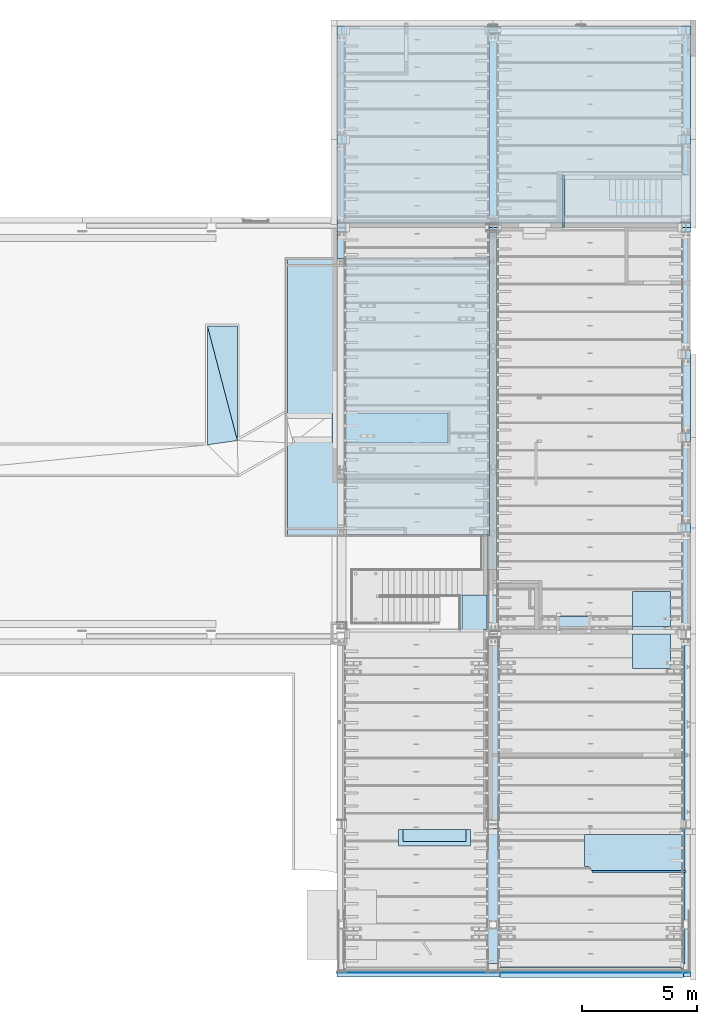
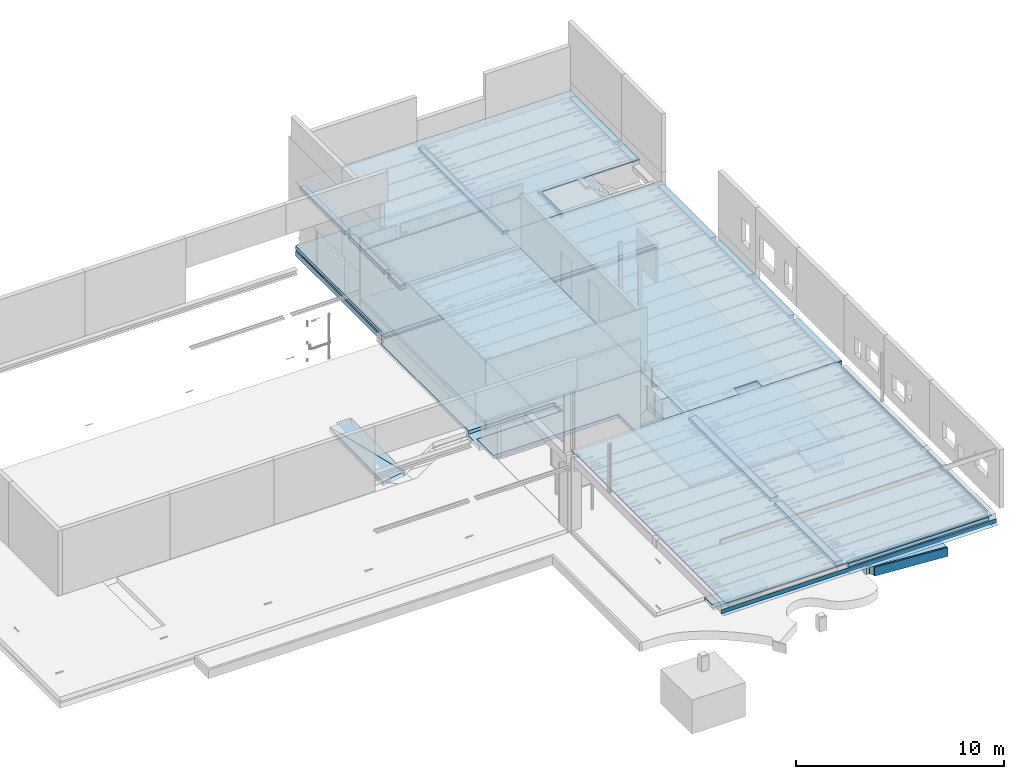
# One storey, part 64 of 230: 37 slabs, 3 plates, 1 element without a shape of its own.
"""IFC4X3_ADD2 building model written with IfcOpenShell, lengths in millimetres."""

from ifc_helpers import new_model, si_unit, direction, frame, frame_2d, origin_with_axes, place, context, subcontext, project, spatial, polyline, rectangle, outline, extrude, clip, bounded_halfspace, material, layer, layer_set, layer_usage, type_object, element, aggregate, save


model = new_model("IFC4X3_ADD2")

# Units and contexts
model_context = context("Model", 3, precision=1e-05, world=origin_with_axes(), true_north=direction((0.0, 1.0)))
body_context = subcontext(model_context, "Body", "Model", "MODEL_VIEW")
ifc_project = project(units=[si_unit("LENGTHUNIT", "METRE", prefix="MILLI"), si_unit("AREAUNIT", "SQUARE_METRE"), si_unit("VOLUMEUNIT", "CUBIC_METRE"), si_unit("PLANEANGLEUNIT", "RADIAN"), si_unit("TIMEUNIT", "SECOND"), si_unit("MASSUNIT", "GRAM")], contexts=[model_context])

# Site, building, storey
site_placement = place(None, origin_with_axes())
site = spatial("IfcSite", under=ifc_project, at=site_placement, Name="Site", CompositionType="ELEMENT")
building_placement = place(site_placement, origin_with_axes())
building = spatial("IfcBuilding", under=site, at=building_placement, Name="IFC Building Story")
storey_placement = place(building_placement, origin_with_axes())
storey = spatial("IfcBuildingStorey", under=building, at=storey_placement, Name="ETAGE 00 (0)", Elevation=0.0)

# Slabs
ifc_material_1 = material(Name="BS_13_Ossature en béton armé - Eléments coulé sur place")
slab_type_1 = type_object("IfcSlabType", Name="Sol:BS_13_FL_BTcoulé200", PredefinedType="FLOOR", material=ifc_material_1)
slab_1_placement = place(storey_placement, frame((33011.68947816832, 18250.00000000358, -200.0), z_axis=(0.0, 0.0, 1.0), x_axis=(0.0, -1.0, 0.0)))
element("IfcSlab", 1, at=slab_1_placement, inside=storey, type_object=slab_type_1, Name="Sol:BS_13_FL_BTcoulé200", ObjectType="Sol:BS_13_FL_BTcoulé200", PredefinedType="FLOOR", context=body_context, shape_type="SweptSolid", body=[
    extrude(outline(polyline([(7802.41745665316, 66.8750000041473), (883.5778034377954, 66.8750000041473), (883.5778034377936, -6873.124999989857), (-717.582543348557, -6873.124999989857), (-717.5825433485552, -2123.124999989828), (-1517.582543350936, -2123.124999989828), (-1517.582543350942, -6873.12499998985), (-9987.582543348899, -6873.124999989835), (-9987.582543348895, -6688.124999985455), (-10237.58254334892, -6688.124999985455), (-10237.58254334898, 8616.874999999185), (7802.417456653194, 8616.874999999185), (7802.417456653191, 7766.874999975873), (5971.917456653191, 7766.874999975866), (5971.917456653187, 6106.874999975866), (7802.417456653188, 6106.874999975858), (7802.41745665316, 66.8750000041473)])), frame((10237.58254334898, 6873.124999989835, 0.0), z_axis=(0.0, 0.0, 1.0), x_axis=(1.0, 0.0, 0.0)), (0.0, 0.0, 1.0), 200.0),
])
slab_2_placement = place(storey_placement, frame((33201.6894781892, 18000.00000000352, 300.0), z_axis=(0.0, 0.0, 1.0), x_axis=(1.0, 0.0, 0.0)))
element("IfcSlab", 2, at=slab_2_placement, inside=storey, type_object=slab_type_1, Name="Sol:BS_13_FL_BTcoulé200", ObjectType="Sol:BS_13_FL_BTcoulé200", PredefinedType="FLOOR", context=body_context, shape_type="SweptSolid", body=[
    extrude(rectangle(XDim=15299.9999999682, YDim=8550.00000000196, at=frame_2d((0.0, 5.95523630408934e-12), x_axis=(1.0, 0.0))), frame((7649.999999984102, 4275.000000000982, 0.0), z_axis=(0.0, 0.0, 1.0), x_axis=(1.0, 0.0, 0.0)), (0.0, 0.0, 1.0), 200.0),
])
slab_3_placement = place(storey_placement, frame((35856.68947817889, -8978.839739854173, -200.0), z_axis=(0.0, 0.0, 1.0), x_axis=(1.0, 0.0, 0.0)))
element("IfcSlab", 3, at=slab_3_placement, inside=storey, type_object=slab_type_1, Name="Sol:BS_13_FL_BTcoulé200", ObjectType="Sol:BS_13_FL_BTcoulé200", PredefinedType="FLOOR", context=body_context, shape_type="SweptSolid", body=[
    extrude(rectangle(XDim=3130.000000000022, YDim=709.1298265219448, at=frame_2d((0.0, 5.95523630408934e-12), x_axis=(1.0, 0.0))), frame((1565.000000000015, 354.5649132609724, 0.0), z_axis=(0.0, 0.0, 1.0), x_axis=(1.0, 0.0, 0.0)), (0.0, 0.0, 1.0), 200.0),
])
slab_4_placement = place(storey_placement, frame((45991.6894781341, -1289.999999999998, -500.9975124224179), z_axis=(0.0, -0.09950371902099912, 0.9950371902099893), x_axis=(1.0, 0.0, 0.0)))
element("IfcSlab", 4, at=slab_4_placement, inside=storey, type_object=slab_type_1, Name="Sol:BS_13_FL_BTcoulé200", ObjectType="Sol:BS_13_FL_BTcoulé200", PredefinedType="FLOOR", context=body_context, shape_type="Clipping", body=[
    clip(clip(extrude(outline(polyline([(-830.0, -763.7406715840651), (-830.0, 763.7406715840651), (830.0, 763.7406715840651), (830.0, -763.7406715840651), (-830.0, -763.7406715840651)])), frame((829.9999999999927, 763.7406715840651, 0.0), z_axis=(0.0, 0.0, 1.0), x_axis=(1.0, 0.0, 0.0)), (0.0, 0.0, 1.0), 200.0), bounded_halfspace(frame((-45991.68947813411, 49.85111570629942, 498.5111570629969), z_axis=(0.0, -0.9950371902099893, 0.09950371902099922), x_axis=(1.0, 0.0, 0.0)), False, frame((829.9999999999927, 763.7406715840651, 0.0), z_axis=(0.0, 0.0, 1.0), x_axis=(1.0, 0.0, 0.0)), polyline([(-830.0, -763.7406715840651), (830.0, -763.7406715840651), (830.0, -743.7406715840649), (-830.0, -743.7406715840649), (-830.0, -763.7406715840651)]))), bounded_halfspace(frame((-45991.68947813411, 1542.40690102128, 349.2555785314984), z_axis=(0.0, 0.9950371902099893, -0.09950371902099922), x_axis=(-1.0, 0.0, 0.0)), False, frame((829.9999999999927, 763.7406715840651, 0.0), z_axis=(0.0, 0.0, 1.0), x_axis=(1.0, 0.0, 0.0)), polyline([(830.0, 743.740671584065), (-830.0, 743.740671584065), (-830.0, 763.7406715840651), (830.0, 763.7406715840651), (830.0, 743.740671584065)]))),
])
slab_5_placement = place(storey_placement, frame((45991.6894781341, 210.0000000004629, -350.0), z_axis=(0.0, 0.0, 1.0), x_axis=(1.0, 0.0, 0.0)))
element("IfcSlab", 5, at=slab_5_placement, inside=storey, type_object=slab_type_1, Name="Sol:BS_13_FL_BTcoulé200", ObjectType="Sol:BS_13_FL_BTcoulé200", PredefinedType="FLOOR", context=body_context, shape_type="SweptSolid", body=[
    extrude(rectangle(XDim=1660.0, YDim=330.500000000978, at=frame_2d((0.0, 5.95523630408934e-12), x_axis=(1.0, 0.0))), frame((830.0, 165.250000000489, 0.0), z_axis=(0.0, 0.0, 1.0), x_axis=(1.0, 0.0, 0.0)), (0.0, 0.0, 1.0), 200.0),
])
slab_6_placement = place(storey_placement, frame((45991.68947813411, 540.5000000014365, -350.9975124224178), z_axis=(0.0, -0.09950371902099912, 0.9950371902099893), x_axis=(1.0, 0.0, 0.0)))
element("IfcSlab", 6, at=slab_6_placement, inside=storey, type_object=slab_type_1, Name="Sol:BS_13_FL_BTcoulé200", ObjectType="Sol:BS_13_FL_BTcoulé200", PredefinedType="FLOOR", context=body_context, shape_type="Clipping", body=[
    clip(clip(extrude(outline(polyline([(-830.0, -763.7406715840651), (-830.0, 763.7406715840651), (830.0, 763.7406715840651), (830.0, -763.7406715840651), (-830.0, -763.7406715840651)])), frame((829.9999999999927, 763.7406715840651, 0.0), z_axis=(0.0, 0.0, 1.0), x_axis=(1.0, 0.0, 0.0)), (0.0, 0.0, 1.0), 200.0), bounded_halfspace(frame((-45991.68947813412, 34.92555785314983, 349.2555785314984), z_axis=(0.0, -0.9950371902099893, 0.09950371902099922), x_axis=(1.0, 0.0, 0.0)), False, frame((829.9999999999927, 763.7406715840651, 0.0), z_axis=(0.0, 0.0, 1.0), x_axis=(1.0, 0.0, 0.0)), polyline([(-830.0, -763.7406715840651), (830.0, -763.7406715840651), (830.0, -743.7406715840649), (-830.0, -743.7406715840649), (-830.0, -763.7406715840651)]))), bounded_halfspace(frame((-45991.68947813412, 1527.48134316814, 200.0), z_axis=(0.0, 0.9950371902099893, -0.09950371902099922), x_axis=(-1.0, 0.0, 0.0)), False, frame((829.9999999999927, 763.7406715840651, 0.0), z_axis=(0.0, 0.0, 1.0), x_axis=(1.0, 0.0, 0.0)), polyline([(830.0, 743.740671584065), (-830.0, 743.740671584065), (-830.0, 763.7406715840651), (830.0, 763.7406715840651), (830.0, 743.740671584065)]))),
])
ifc_material_2 = material(Name="BS_13_Sable stabilisé")
ifc_layer_1 = layer(ifc_material_2, 50.0)
ifc_material_3 = material(Name="BS_13_Empierrement sous dalle")
ifc_layer_2 = layer(ifc_material_3, 250.0)
ifc_layer_set_1 = layer_set([ifc_layer_1, ifc_layer_2], Name="Sol:BS_13_FL_STAB50-EMPI250 2")
ifc_layer_usage_1 = layer_usage(ifc_layer_set_1, "AXIS3", "POSITIVE", 0.0)
slab_type_2 = type_object("IfcSlabType", Name="Sol:BS_13_FL_STAB50-EMPI250 2 300", PredefinedType="FLOOR", material=ifc_layer_set_1)
slab_7_placement = place(storey_placement, frame((33201.6894781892, 18249.999999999, -80.0), z_axis=(0.0, 0.0, 1.0), x_axis=(1.0, 0.0, 0.0)))
element("IfcSlab", 7, at=slab_7_placement, inside=storey, type_object=slab_type_2, material=ifc_layer_usage_1, Name="Sol:BS_13_FL_STAB50-EMPI250 2", ObjectType="Sol:BS_13_FL_STAB50-EMPI250 2", PredefinedType="FLOOR", context=body_context, shape_type="SweptSolid", body=[
    extrude(rectangle(XDim=15299.9999999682, YDim=8300.000000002, at=frame_2d((0.0, 5.95523630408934e-12), x_axis=(1.0, 0.0))), frame((7649.999999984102, 4150.000000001, 0.0), z_axis=(0.0, 0.0, 1.0), x_axis=(1.0, 0.0, 0.0)), (0.0, 0.0, 1.0), 300.0),
])
ifc_layer_usage_2 = layer_usage(ifc_layer_set_1, "AXIS3", "POSITIVE", 0.0)
slab_8_placement = place(storey_placement, frame((36056.6894781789, -8778.839739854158, -500.0), z_axis=(0.0, 0.0, 1.0), x_axis=(1.0, 0.0, 0.0)))
element("IfcSlab", 8, at=slab_8_placement, inside=storey, type_object=slab_type_2, material=ifc_layer_usage_2, Name="Sol:BS_13_FL_STAB50-EMPI250", ObjectType="Sol:BS_13_FL_STAB50-EMPI250", PredefinedType="FLOOR", context=body_context, shape_type="SweptSolid", body=[
    extrude(rectangle(XDim=2730.0, YDim=509.1298265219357, at=frame_2d((0.0, 5.95523630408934e-12), x_axis=(1.0, 0.0))), frame((1365.0, 254.5649132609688, 0.0), z_axis=(0.0, 0.0, 1.0), x_axis=(1.0, 0.0, 0.0)), (0.0, 0.0, 1.0), 300.0),
])

slab_9_placement = place(storey_placement, origin_with_axes())
slab_9 = element("IfcSlab", 9, at=slab_9_placement, inside=storey, Name="Sol:BS_13_FL_BTcoulé250", ObjectType="Sol:BS_13_FL_BTcoulé250", PredefinedType="NOTDEFINED")
slab_type_3 = type_object("IfcSlabType", Name="Sol:BS_13_FL_BTcoulé250", PredefinedType="FLOOR", material=ifc_material_1)
slab_10_placement = place(slab_9_placement, frame((27586.6894781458, 13551.63039487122, -645.4000000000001), z_axis=(0.0, -0.0175072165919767, 0.999846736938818), x_axis=(0.2531579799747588, -0.9672766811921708, -0.01693691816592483)))
slab_10 = element("IfcSlab", 10, at=slab_10_placement, type_object=slab_type_3, Name="Sol:BS_13_FL_BTcoulé250", ObjectType="Sol:BS_13_FL_BTcoulé250", PredefinedType="FLOOR", context=body_context, shape_type="SweptSolid", body=[
    extrude(outline(polyline([(-1492.798723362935, 838.5634887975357), (3314.70282069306, -419.4745403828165), (-1821.904097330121, -419.0889484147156), (-1492.798723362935, 838.5634887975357)])), frame((1820.43058544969, 419.4745403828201, 86.98666611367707), z_axis=(0.0, 0.0, 1.0), x_axis=(1.0, 0.0, 0.0)), (-0.01693691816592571, 0.004432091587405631, 0.9998467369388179), 250.0),
])
slab_11_placement = place(slab_9_placement, frame((27586.68947813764, 13551.63039487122, -661.2999999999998), z_axis=(-0.009416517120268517, -0.0199693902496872, 0.9997562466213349), x_axis=(0.0001880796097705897, -0.9998005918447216, -0.0199685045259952)))
slab_11 = element("IfcSlab", 11, at=slab_11_placement, type_object=slab_type_3, Name="Sol:BS_13_FL_BTcoulé250", ObjectType="Sol:BS_13_FL_BTcoulé250", PredefinedType="FLOOR", context=body_context, shape_type="SweptSolid", body=[
    extrude(outline(polyline([(-3374.088850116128, -432.7179288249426), (1595.519823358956, 866.4050105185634), (1778.569026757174, -433.6870816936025), (-3374.088850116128, -432.7179288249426)])), frame((3372.0340910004, 433.6870816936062, 102.8749177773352), z_axis=(0.0, 0.0, 1.0), x_axis=(1.0, 0.0, 0.0)), (-0.01996850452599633, 0.009418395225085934, 0.9997562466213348), 250.0),
])
aggregate(slab_9, [slab_10, slab_11])

slab_12_placement = place(storey_placement, frame((33011.68947816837, 8479.99999999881, -549.2341742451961), z_axis=(-0.0188366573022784, 0.0, 0.999822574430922), x_axis=(0.999822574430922, 0.0, 0.0188366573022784)))
element("IfcSlab", 12, at=slab_12_placement, inside=storey, type_object=slab_type_3, Name="Sol:BS_13_FL_BTcoulé250", ObjectType="Sol:BS_13_FL_BTcoulé250", PredefinedType="FLOOR", context=body_context, shape_type="Clipping", body=[
    clip(clip(extrude(outline(polyline([(-2502.798224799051, 650.0000000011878), (2502.798224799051, 650.0000000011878), (2502.798224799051, -650.0000000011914), (-2502.798224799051, -650.0000000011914), (-2502.798224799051, 650.0000000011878)])), frame((2502.798224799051, 650.0000000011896, 0.0), z_axis=(0.0, 0.0, 1.0), x_axis=(1.0, 0.0, 0.0)), (0.0, 0.0, 1.0), 249.9556436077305), bounded_halfspace(frame((10.34573591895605, -8479.99999999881, 549.1367260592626), z_axis=(-0.999822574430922, 0.0, 0.01883665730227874), x_axis=(0.0, -1.0, 0.0)), False, frame((2502.798224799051, 650.0000000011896, 0.0), z_axis=(0.0, 0.0, 1.0), x_axis=(1.0, 0.0, 0.0)), polyline([(-2502.798224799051, 650.0000000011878), (-2502.798224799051, -650.0000000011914), (-2498.089060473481, -650.0000000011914), (-2498.089060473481, 650.0000000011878), (-2502.798224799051, 650.0000000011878)]))), bounded_halfspace(frame((5009.458608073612, -8479.99999999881, 454.9534395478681), z_axis=(0.999822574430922, 0.0, -0.01883665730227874), x_axis=(0.0, 1.0, 0.0)), False, frame((2502.798224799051, 650.0000000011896, 0.0), z_axis=(0.0, 0.0, 1.0), x_axis=(1.0, 0.0, 0.0)), polyline([(2498.089060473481, -650.0000000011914), (2498.089060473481, 650.0000000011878), (2502.798224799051, 650.0000000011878), (2502.798224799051, -650.0000000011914), (2498.089060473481, -650.0000000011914)]))),
])
ifc_material_4 = material(Name="BS_28_Ossature en béton armé - Eléments coulé sur place")
slab_type_4 = type_object("IfcSlabType", Name="Sol:BS_23_FL_BTcoulé270", PredefinedType="FLOOR", material=ifc_material_4)
slab_13_placement = place(storey_placement, frame((31047.18947812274, 16459.16034673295, 4000.0), z_axis=(0.0, 0.0, 1.0), x_axis=(0.0, -1.0, 0.0)))
element("IfcSlab", 13, at=slab_13_placement, inside=storey, type_object=slab_type_4, Name="Sol:BS_23_FL_BTcoulé270", ObjectType="Sol:BS_23_FL_BTcoulé270", PredefinedType="FLOOR", context=body_context, shape_type="SweptSolid", body=[
    extrude(rectangle(XDim=11980.3206935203, YDim=2554.500000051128, at=frame_2d((0.0, 5.95523630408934e-12), x_axis=(-1.0, 0.0))), frame((5990.160346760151, 1277.250000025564, 0.0), z_axis=(0.0, 0.0, 1.0), x_axis=(1.0, 0.0, 0.0)), (0.0, 0.0, 1.0), 270.0),
])
slab_14_placement = place(storey_placement, frame((38621.18899999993, 400.000228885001, 4000.000000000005), z_axis=(0.0, 0.0, 1.0), x_axis=(1.0, 0.0, 0.0)))
element("IfcSlab", 14, at=slab_14_placement, inside=storey, type_object=slab_type_4, Name="Sol:BS_23_FL_BTcoulé270", ObjectType="Sol:BS_23_FL_BTcoulé270", PredefinedType="FLOOR", context=body_context, shape_type="Clipping", body=[
    clip(extrude(outline(polyline([(-755.0, 742.499867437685), (755.0, 742.499867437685), (755.0, -742.499867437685), (-755.0, -742.499867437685), (-755.0, 742.499867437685)])), frame((755.0, 742.499867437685, 0.0), z_axis=(0.0, 0.0, 1.0), x_axis=(1.0, 0.0, 0.0)), (0.0, 0.0, 1.0), 270.0), bounded_halfspace(frame((-38621.18899999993, -400.000228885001, 199.9999999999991), z_axis=(0.0, 0.0, 1.0), x_axis=(1.0, 0.0, 0.0)), False, frame((755.0, 742.499867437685, 0.0), z_axis=(0.0, 0.0, 1.0), x_axis=(1.0, 0.0, 0.0)), polyline([(755.0, 742.499867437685), (328.5004781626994, 742.499867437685), (328.5004781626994, -742.499867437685), (755.0, -742.499867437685), (755.0, 742.499867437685)]))),
])
ifc_material_5 = material(Name="BS_92_Klinker")
ifc_layer_3 = layer(ifc_material_5, 200.0)
ifc_layer_4 = layer(ifc_material_2, 150.0)
ifc_layer_5 = layer(ifc_material_3, 150.0)
ifc_layer_set_2 = layer_set([ifc_layer_3, ifc_layer_4, ifc_layer_5], Name="Sol:BS_13_FL_BTcoulé500 exterieur")
ifc_layer_usage_3 = layer_usage(ifc_layer_set_2, "AXIS3", "POSITIVE", 0.0)
slab_type_5 = type_object("IfcSlabType", Name="Sol:BS_13_FL_BTcoulé500 exterieur 500", PredefinedType="FLOOR", material=ifc_layer_set_2)
slab_15_placement = place(storey_placement, frame((43925.13573085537, -10076.87289093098, -821.1637500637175), z_axis=(0.06810872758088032, 0.0, 0.9976779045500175), x_axis=(0.9976779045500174, 0.0, -0.06810872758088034)))
element("IfcSlab", 15, at=slab_15_placement, inside=storey, type_object=slab_type_5, material=ifc_layer_usage_3, Name="Sol:BS_13_FL_BTcoulé500 exterieur", ObjectType="Sol:BS_13_FL_BTcoulé500 exterieur", PredefinedType="FLOOR", context=body_context, shape_type="SweptSolid", body=[
    extrude(outline(polyline([(-1057.276388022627, -529.7731150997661), (-1186.177846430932, -314.215239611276), (-1376.236106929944, -325.9838764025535), (-1376.236106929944, 1067.099689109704), (3028.485734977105, 1067.099689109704), (3028.485734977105, -482.1135735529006), (-1061.045021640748, -482.1135735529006), (-1057.276388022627, -529.7731150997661)])), frame((1355.803488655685, 529.7731150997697, 299.3033713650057), z_axis=(0.0, 0.0, 1.0), x_axis=(1.0, 0.0, 0.0)), (-0.06810872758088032, 0.0, 0.9976779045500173), 501.1637500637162),
])
ifc_material_6 = material(Name="21_Bordure_BetonPrefabrique_500")
slab_type_6 = type_object("IfcSlabType", Name="Sol:BS_13_FL_BTbordure en beton", PredefinedType="FLOOR", material=ifc_material_6)
slab_16_placement = place(storey_placement, frame((44239.59491235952, -10127.99800123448, -821.0544636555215), z_axis=(0.0, -1.0, 0.0), x_axis=(1.0, 0.0, 0.0)))
element("IfcSlab", 16, at=slab_16_placement, inside=storey, type_object=slab_type_6, Name="Sol:BS_13_FL_BTbordure en beton", ObjectType="Sol:BS_13_FL_BTbordure en beton", PredefinedType="FLOOR", context=body_context, shape_type="Clipping", body=[
    clip(extrude(outline(polyline([(-2040.017237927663, 390.509175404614), (2040.01723792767, 130.5452882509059), (2040.01723792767, -390.5091754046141), (-2040.017237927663, -130.5452882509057), (-2040.017237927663, 390.509175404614)])), frame((2040.017237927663, 390.5091754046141, -98.78465185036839), z_axis=(0.0, 0.0, 1.0), x_axis=(1.0, 0.0, 0.0)), (0.0, 0.0, 1.0), 98.78465185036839), bounded_halfspace(frame((-1059.946400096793, 821.0544636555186, -13534.45973262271), z_axis=(-0.996902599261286, 0.0, 0.07864609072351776), x_axis=(0.07864609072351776, 0.0, 0.996902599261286)), False, frame((2040.017237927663, 390.5091754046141, -98.78465185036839), z_axis=(0.0, 0.0, 1.0), x_axis=(1.0, 0.0, 0.0)), polyline([(-2040.017237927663, -130.5452882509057), (-2032.224072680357, -131.0418383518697), (-2032.224072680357, 390.0126253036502), (-2040.017237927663, 390.509175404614), (-2040.017237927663, -130.5452882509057)]))),
])
slab_type_7 = type_object("IfcSlabType", Name="Sol:BS_23_FL_BTcoulé70", PredefinedType="FLOOR", material=ifc_material_4)
slab_17_placement = place(storey_placement, frame((33446.18799999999, 400.0002288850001, 4200.0), z_axis=(0.0, 0.0, 1.0), x_axis=(0.0, -1.0, 0.0)))
element("IfcSlab", 17, at=slab_17_placement, inside=storey, type_object=slab_type_7, Name="Sol:BS_23_FL_BTcoulé70", ObjectType="Sol:BS_23_FL_BTcoulé70", PredefinedType="FLOOR", context=body_context, shape_type="SweptSolid", body=[
    extrude(rectangle(XDim=14860.0002289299, YDim=14819.49800000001, at=frame_2d((0.0, 5.95523630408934e-12), x_axis=(-1.0, 0.0))), frame((7430.00011446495, 7409.749000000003, 0.0), z_axis=(0.0, 0.0, 1.0), x_axis=(1.0, 0.0, 0.0)), (0.0, 0.0, 1.0), 70.0),
])
slab_18_placement = place(storey_placement, frame((39704.68947816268, 17810.00000000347, 4200.0), z_axis=(0.0, 0.0, 1.0), x_axis=(0.0, -1.0, 0.0)))
element("IfcSlab", 18, at=slab_18_placement, inside=storey, type_object=slab_type_7, Name="Sol:BS_23_FL_BTcoulé70", ObjectType="Sol:BS_23_FL_BTcoulé70", PredefinedType="FLOOR", context=body_context, shape_type="SweptSolid", body=[
    extrude(outline(polyline([(3932.500114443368, -960.8760452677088), (4492.499885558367, -960.8760452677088), (4492.499885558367, -4072.375567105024), (-12917.4998855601, -4072.375567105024), (-12917.4998855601, 4724.127657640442), (4492.499885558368, 4724.127657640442), (4492.499885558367, 309.1239547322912), (3932.500114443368, 309.1239547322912), (3932.500114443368, -960.8760452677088)])), frame((12917.4998855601, 4072.375567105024, 0.0), z_axis=(0.0, 0.0, 1.0), x_axis=(1.0, 0.0, 0.0)), (0.0, 0.0, 1.0), 70.0),
])
slab_19_placement = place(storey_placement, frame((33601.68947817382, 16501.5000000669, 4200.0), z_axis=(0.0, 0.0, 1.0), x_axis=(0.0, -1.0, 0.0)))
element("IfcSlab", 19, at=slab_19_placement, inside=storey, type_object=slab_type_7, Name="Sol:BS_23_FL_BTcoulé70", ObjectType="Sol:BS_23_FL_BTcoulé70", PredefinedType="FLOOR", context=body_context, shape_type="SweptSolid", body=[
    extrude(rectangle(XDim=11986.0000000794, YDim=6199.499521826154, at=frame_2d((0.0, 5.95523630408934e-12), x_axis=(-1.0, 0.0))), frame((5993.000000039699, 3099.749760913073, 0.0), z_axis=(0.0, 0.0, 1.0), x_axis=(1.0, 0.0, 0.0)), (0.0, 0.0, 1.0), 70.0),
])
slab_20_placement = place(storey_placement, frame((33206.188, 16501.50000006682, 4200.0), z_axis=(0.0, 0.0, 1.0), x_axis=(1.0, 0.0, 0.0)))
element("IfcSlab", 20, at=slab_20_placement, inside=storey, type_object=slab_type_7, Name="Sol:BS_23_FL_BTcoulé70", ObjectType="Sol:BS_23_FL_BTcoulé70", PredefinedType="FLOOR", context=body_context, shape_type="SweptSolid", body=[
    extrude(rectangle(XDim=6595.000999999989, YDim=3403.499999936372, at=frame_2d((0.0, 5.95523630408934e-12), x_axis=(1.0, 0.0))), frame((3297.500499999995, 1701.749999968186, 0.0), z_axis=(0.0, 0.0, 1.0), x_axis=(1.0, 0.0, 0.0)), (0.0, 0.0, 1.0), 70.0),
])
slab_21_placement = place(storey_placement, frame((33201.68947816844, 17810.00000000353, 4200.0), z_axis=(0.0, 0.0, 1.0), x_axis=(1.0, 0.0, 0.0)))
element("IfcSlab", 21, at=slab_21_placement, inside=storey, type_object=slab_type_7, Name="Sol:BS_23_FL_BTcoulé70", ObjectType="Sol:BS_23_FL_BTcoulé70", PredefinedType="FLOOR", context=body_context, shape_type="SweptSolid", body=[
    extrude(outline(polyline([(-1367.499999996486, -3231.250000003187), (-1367.499999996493, -1136.250000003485), (-7927.499999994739, -1136.25000000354), (-7927.499999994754, 5508.749999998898), (7372.499999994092, 5508.749999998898), (7372.499999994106, -1141.249999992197), (1922.499999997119, -1141.249999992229), (1922.499999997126, -3231.25000000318), (-1367.499999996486, -3231.250000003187)])), frame((7927.499999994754, 3231.250000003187, 0.0), z_axis=(0.0, 0.0, 1.0), x_axis=(1.0, 0.0, 0.0)), (0.0, 0.0, 1.0), 70.0),
])
slab_type_8 = type_object("IfcSlabType", Name="Sol:BS_23_FL_BTremplissage chape de compression", PredefinedType="FLOOR", material=ifc_material_4)
slab_22_placement = place(storey_placement, frame((39750.69222475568, -8209.99999995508, 4000.0), z_axis=(0.0, 0.0, 1.0), x_axis=(0.0, -1.0, 0.0)))
element("IfcSlab", 22, at=slab_22_placement, inside=storey, type_object=slab_type_8, Name="Sol:BS_23_FL_BTremplissage chape de compression:3", ObjectType="Sol:BS_23_FL_BTremplissage chape de compression", PredefinedType="FLOOR", context=body_context, shape_type="SweptSolid", body=[
    extrude(rectangle(XDim=5859.99999999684, YDim=430.4967752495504, at=frame_2d((0.0, 5.95523630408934e-12), x_axis=(-1.0, 0.0))), frame((2929.999999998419, 215.2483876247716, 0.0), z_axis=(0.0, 0.0, 1.0), x_axis=(1.0, 0.0, 0.0)), (0.0, 0.0, 1.0), 200.0),
])
slab_23_placement = place(storey_placement, frame((39750.69222475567, 4.455159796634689e-08, 4000.0), z_axis=(0.0, 0.0, 1.0), x_axis=(0.0, -1.0, 0.0)))
element("IfcSlab", 23, at=slab_23_placement, inside=storey, type_object=slab_type_8, Name="Sol:BS_23_FL_BTremplissage chape de compression:4", ObjectType="Sol:BS_23_FL_BTremplissage chape de compression", PredefinedType="FLOOR", context=body_context, shape_type="SweptSolid", body=[
    extrude(rectangle(XDim=7850.000086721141, YDim=430.4967752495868, at=frame_2d((0.0, 5.95523630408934e-12), x_axis=(-1.0, 0.0))), frame((3925.00004336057, 215.2483876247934, 0.0), z_axis=(0.0, 0.0, 1.0), x_axis=(1.0, 0.0, 0.0)), (0.0, 0.0, 1.0), 200.0),
])
slab_24_placement = place(storey_placement, frame((48196.18900000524, -8210.000086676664, 4000.0), z_axis=(-1.0, 0.0, 0.0), x_axis=(0.0, -1.0, 0.0)))
element("IfcSlab", 24, at=slab_24_placement, inside=storey, type_object=slab_type_8, Name="Sol:BS_23_FL_BTremplissage chape de compression:5", ObjectType="Sol:BS_23_FL_BTremplissage chape de compression", PredefinedType="FLOOR", context=body_context, shape_type="SweptSolid", body=[
    extrude(outline(polyline([(2929.999956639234, -100.0), (-2929.999956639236, -100.0), (-2929.999956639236, 100.0), (2929.999956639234, 100.0), (2929.999956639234, -100.0)])), frame((2929.999956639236, 100.0, -69.49700000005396), z_axis=(0.0, 0.0, 1.0), x_axis=(1.0, 0.0, 0.0)), (0.0, 0.0, 1.0), 69.49700000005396),
])
slab_25_placement = place(storey_placement, frame((48195.68900000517, 4.451976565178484e-08, 4000.0), z_axis=(-1.0, 0.0, 0.0), x_axis=(0.0, -1.0, 0.0)))
element("IfcSlab", 25, at=slab_25_placement, inside=storey, type_object=slab_type_8, Name="Sol:BS_23_FL_BTremplissage chape de compression:6", ObjectType="Sol:BS_23_FL_BTremplissage chape de compression", PredefinedType="FLOOR", context=body_context, shape_type="SweptSolid", body=[
    extrude(outline(polyline([(3925.000043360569, -100.0), (-3925.000043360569, -100.0), (-3925.000043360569, 100.0), (3925.000043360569, 100.0), (3925.000043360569, -100.0)])), frame((3925.000043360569, 100.0, -69.99700000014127), z_axis=(0.0, 0.0, 1.0), x_axis=(1.0, 0.0, 0.0)), (0.0, 0.0, 1.0), 69.99700000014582),
])
slab_26_placement = place(storey_placement, frame((48195.68900000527, 4605.000610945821, 4000.0), z_axis=(0.0, 0.0, 1.0), x_axis=(0.0, -1.0, 0.0)))
element("IfcSlab", 26, at=slab_26_placement, inside=storey, type_object=slab_type_8, Name="Sol:BS_23_FL_BTremplissage chape de compression:7", ObjectType="Sol:BS_23_FL_BTremplissage chape de compression", PredefinedType="FLOOR", context=body_context, shape_type="SweptSolid", body=[
    extrude(rectangle(XDim=4215.0006109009, YDim=306.0004781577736, at=frame_2d((0.0, 5.95523630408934e-12), x_axis=(-1.0, 0.0))), frame((2107.50030545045, 153.0002390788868, 0.0), z_axis=(0.0, 0.0, 1.0), x_axis=(1.0, 0.0, 0.0)), (0.0, 0.0, 1.0), 200.0),
])
slab_27_placement = place(storey_placement, frame((48196.18900000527, 8515.000610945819, 4000.0), z_axis=(0.0, 0.0, 1.0), x_axis=(0.0, -1.0, 0.0)))
element("IfcSlab", 27, at=slab_27_placement, inside=storey, type_object=slab_type_8, Name="Sol:BS_23_FL_BTremplissage chape de compression:8", ObjectType="Sol:BS_23_FL_BTremplissage chape de compression", PredefinedType="FLOOR", context=body_context, shape_type="SweptSolid", body=[
    extrude(rectangle(XDim=3520.0, YDim=305.5004781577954, at=frame_2d((0.0, 5.95523630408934e-12), x_axis=(-1.0, 0.0))), frame((1760.0, 152.7502390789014, 0.0), z_axis=(0.0, 0.0, 1.0), x_axis=(1.0, 0.0, 0.0)), (0.0, 0.0, 1.0), 200.0),
])
slab_28_placement = place(storey_placement, frame((39704.68947816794, 17610.0000000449, 4000.0), z_axis=(0.0, 0.0, 1.0), x_axis=(0.0, -1.0, 0.0)))
element("IfcSlab", 28, at=slab_28_placement, inside=storey, type_object=slab_type_8, Name="Sol:BS_23_FL_BTremplissage chape de compression:9", ObjectType="Sol:BS_23_FL_BTremplissage chape de compression", PredefinedType="FLOOR", context=body_context, shape_type="SweptSolid", body=[
    extrude(outline(polyline([(-9260.00001207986, -77.83349272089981), (-9260.00001207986, 252.1665072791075), (5380.000024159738, 252.1665072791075), (5380.000024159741, -174.3330145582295), (3879.99998792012, -174.3330145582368), (3879.99998792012, -77.83349272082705), (-9260.00001207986, -77.83349272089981)])), frame((9260.00001207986, 174.3330145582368, 0.0), z_axis=(0.0, 0.0, 1.0), x_axis=(1.0, 0.0, 0.0)), (0.0, 0.0, 1.0), 200.0),
])
slab_29_placement = place(storey_placement, frame((48196.18900000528, 12125.00061094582, 4000.0), z_axis=(0.0, 0.0, 1.0), x_axis=(0.0, -1.0, 0.0)))
element("IfcSlab", 29, at=slab_29_placement, inside=storey, type_object=slab_type_8, Name="Sol:BS_23_FL_BTremplissage chape de compression:10", ObjectType="Sol:BS_23_FL_BTremplissage chape de compression", PredefinedType="FLOOR", context=body_context, shape_type="SweptSolid", body=[
    extrude(rectangle(XDim=3220.000000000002, YDim=305.5004781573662, at=frame_2d((0.0, 5.95523630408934e-12), x_axis=(-1.0, 0.0))), frame((1610.000000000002, 152.7502390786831, 0.0), z_axis=(0.0, 0.0, 1.0), x_axis=(1.0, 0.0, 0.0)), (0.0, 0.0, 1.0), 200.0),
])
slab_30_placement = place(storey_placement, frame((48196.18900000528, 17609.99961094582, 4000.0), z_axis=(0.0, 0.0, 1.0), x_axis=(0.0, -1.0, 0.0)))
element("IfcSlab", 30, at=slab_30_placement, inside=storey, type_object=slab_type_8, Name="Sol:BS_23_FL_BTremplissage chape de compression:11", ObjectType="Sol:BS_23_FL_BTremplissage chape de compression", PredefinedType="FLOOR", context=body_context, shape_type="SweptSolid", body=[
    extrude(rectangle(XDim=5094.998999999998, YDim=305.5004781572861, at=frame_2d((0.0, 5.95523630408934e-12), x_axis=(-1.0, 0.0))), frame((2547.499499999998, 152.7502390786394, 0.0), z_axis=(0.0, 0.0, 1.0), x_axis=(1.0, 0.0, 0.0)), (0.0, 0.0, 1.0), 200.0),
])
slab_31_placement = place(storey_placement, frame((33201.6894781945, 17610.00000004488, 4000.0), z_axis=(0.0, 0.0, 1.0), x_axis=(0.0, -1.0, 0.0)))
element("IfcSlab", 31, at=slab_31_placement, inside=storey, type_object=slab_type_8, Name="Sol:BS_23_FL_BTremplissage chape de compression:12", ObjectType="Sol:BS_23_FL_BTremplissage chape de compression", PredefinedType="FLOOR", context=body_context, shape_type="SweptSolid", body=[
    extrude(rectangle(XDim=1150.839653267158, YDim=314.4995218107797, at=frame_2d((0.0, 5.95523630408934e-12), x_axis=(-1.0, 0.0))), frame((575.419826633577, 157.2497609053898, 0.0), z_axis=(0.0, 0.0, 1.0), x_axis=(1.0, 0.0, 0.0)), (0.0, 0.0, 1.0), 200.0),
])
slab_32_placement = place(storey_placement, frame((33201.68947817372, 21424.99961094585, 4000.0), z_axis=(0.0, 0.0, 1.0), x_axis=(0.0, -1.0, 0.0)))
element("IfcSlab", 32, at=slab_32_placement, inside=storey, type_object=slab_type_8, Name="Sol:BS_23_FL_BTremplissage chape de compression:13", ObjectType="Sol:BS_23_FL_BTremplissage chape de compression", PredefinedType="FLOOR", context=body_context, shape_type="SweptSolid", body=[
    extrude(rectangle(XDim=3424.999610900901, YDim=314.4995218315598, at=frame_2d((0.0, 5.95523630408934e-12), x_axis=(-1.0, 0.0))), frame((1712.49980545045, 157.2497609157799, 0.0), z_axis=(0.0, 0.0, 1.0), x_axis=(1.0, 0.0, 0.0)), (0.0, 0.0, 1.0), 200.0),
])
slab_33_placement = place(storey_placement, frame((33201.68947819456, 26159.9989624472, 4000.0), z_axis=(0.0, 0.0, 1.0), x_axis=(0.0, -1.0, 0.0)))
element("IfcSlab", 33, at=slab_33_placement, inside=storey, type_object=slab_type_8, Name="Sol:BS_23_FL_BTremplissage chape de compression:14", ObjectType="Sol:BS_23_FL_BTremplissage chape de compression", PredefinedType="FLOOR", context=body_context, shape_type="SweptSolid", body=[
    extrude(rectangle(XDim=4344.999351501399, YDim=314.4995218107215, at=frame_2d((0.0, 5.95523630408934e-12), x_axis=(-1.0, 0.0))), frame((2172.4996757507, 157.2497609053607, 0.0), z_axis=(0.0, 0.0, 1.0), x_axis=(1.0, 0.0, 0.0)), (0.0, 0.0, 1.0), 200.0),
])
slab_34_placement = place(storey_placement, frame((48196.18900000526, 21424.99961094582, 4000.0), z_axis=(0.0, 0.0, 1.0), x_axis=(0.0, -1.0, 0.0)))
element("IfcSlab", 34, at=slab_34_placement, inside=storey, type_object=slab_type_8, Name="Sol:BS_23_FL_BTremplissage chape de compression:15", ObjectType="Sol:BS_23_FL_BTremplissage chape de compression", PredefinedType="FLOOR", context=body_context, shape_type="SweptSolid", body=[
    extrude(rectangle(XDim=1334.999610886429, YDim=305.5004781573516, at=frame_2d((0.0, 5.95523630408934e-12), x_axis=(-1.0, 0.0))), frame((667.4998054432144, 152.7502390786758, 0.0), z_axis=(0.0, 0.0, 1.0), x_axis=(1.0, 0.0, 0.0)), (0.0, 0.0, 1.0), 200.0),
])
slab_35_placement = place(storey_placement, frame((48196.18900000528, 26159.9989624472, 4000.0), z_axis=(0.0, 0.0, 1.0), x_axis=(0.0, -1.0, 0.0)))
element("IfcSlab", 35, at=slab_35_placement, inside=storey, type_object=slab_type_8, Name="Sol:BS_23_FL_BTremplissage chape de compression:16", ObjectType="Sol:BS_23_FL_BTremplissage chape de compression", PredefinedType="FLOOR", context=body_context, shape_type="SweptSolid", body=[
    extrude(rectangle(XDim=4344.999351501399, YDim=305.5004781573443, at=frame_2d((0.0, 5.95523630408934e-12), x_axis=(-1.0, 0.0))), frame((2172.4996757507, 152.7502390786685, 0.0), z_axis=(0.0, 0.0, 1.0), x_axis=(1.0, 0.0, 0.0)), (0.0, 0.0, 1.0), 200.0),
])
slab_36_placement = place(storey_placement, frame((39801.18900000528, 26160.00061039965, 4000.0), z_axis=(0.0, 0.0, 1.0), x_axis=(0.0, -1.0, 0.0)))
element("IfcSlab", 36, at=slab_36_placement, inside=storey, type_object=slab_type_8, Name="Sol:BS_23_FL_BTremplissage chape de compression:17", ObjectType="Sol:BS_23_FL_BTremplissage chape de compression", PredefinedType="FLOOR", context=body_context, shape_type="SweptSolid", body=[
    extrude(rectangle(XDim=8160.000610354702, YDim=329.9999999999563, at=frame_2d((0.0, 5.95523630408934e-12), x_axis=(-1.0, 0.0))), frame((4080.000305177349, 164.9999999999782, 0.0), z_axis=(0.0, 0.0, 1.0), x_axis=(1.0, 0.0, 0.0)), (0.0, 0.0, 1.0), 200.0),
])
slab_37_placement = place(storey_placement, frame((40261.68947816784, -14459.99999999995, 4000.0), z_axis=(0.0, 0.0, 1.0), x_axis=(1.0, 0.0, 0.0)))
element("IfcSlab", 37, at=slab_37_placement, inside=storey, type_object=slab_type_8, Name="Sol:BS_23_FL_BTremplissage chape de compression:20", ObjectType="Sol:BS_23_FL_BTremplissage chape de compression", PredefinedType="FLOOR", context=body_context, shape_type="SweptSolid", body=[
    extrude(rectangle(XDim=7853.996521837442, YDim=220.0000000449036, at=frame_2d((0.0, 5.95523630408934e-12), x_axis=(1.0, 0.0))), frame((3926.998260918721, 110.0000000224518, 0.0), z_axis=(0.0, 0.0, 1.0), x_axis=(1.0, 0.0, 0.0)), (0.0, 0.0, 1.0), 200.0),
])
slab_38_placement = place(storey_placement, frame((42962.18900000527, 20090.00000005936, 4000.0), z_axis=(-1.0, 0.0, 0.0), x_axis=(0.0, -1.0, 0.0)))
element("IfcSlab", 38, at=slab_38_placement, inside=storey, type_object=slab_type_8, Name="Sol:BS_23_FL_BTremplissage chape de compression:21", ObjectType="Sol:BS_23_FL_BTremplissage chape de compression", PredefinedType="FLOOR", context=body_context, shape_type="SweptSolid", body=[
    extrude(outline(polyline([(1140.000000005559, -100.0), (-1140.000000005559, -100.0), (-1140.000000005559, 100.0), (1140.000000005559, 100.0), (1140.000000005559, -100.0)])), frame((1140.000000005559, 100.0, -89.50047816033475), z_axis=(0.0, 0.0, 1.0), x_axis=(1.0, 0.0, 0.0)), (0.0, 0.0, 1.0), 89.50047816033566),
])

# Plates
ifc_material_7 = material(Name="Acier - B 500 B")
plate_1_placement = place(storey_placement, frame((40251.68947816, -14676.450000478, 3706.0), z_axis=(0.0, 0.0, 1.0), x_axis=(1.0, 0.0, 0.0)))
element("IfcPlate", 39, at=plate_1_placement, inside=storey, material=ifc_material_7, Name="-", ObjectType="Aucun", context=body_context, shape_type="SweptSolid", body=[
    extrude(rectangle(XDim=7949.999999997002, YDim=371.4500004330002, at=frame_2d((0.0, 5.95523630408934e-12), x_axis=(1.0, 0.0))), frame((3974.999999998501, 185.7250002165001, 0.0), z_axis=(0.0, 0.0, 1.0), x_axis=(1.0, 0.0, 0.0)), (0.0, 0.0, 1.0), 14.0),
])
plate_2_placement = place(storey_placement, frame((33201.689478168, -14660.000000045, 3706.0), z_axis=(0.0, 0.0, 1.0), x_axis=(1.0, 0.0, 0.0)))
element("IfcPlate", 40, at=plate_2_placement, inside=storey, material=ifc_material_7, Name="-", ObjectType="Aucun", context=body_context, shape_type="SweptSolid", body=[
    extrude(outline(polyline([(7649.999999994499, -100.0000000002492), (-7649.999999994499, -100.0000000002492), (-7649.999999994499, 100.0000000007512), (7649.999999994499, 99.9999999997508), (7649.999999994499, -100.0000000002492)])), frame((7649.999999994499, 100.0000000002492, 0.0), z_axis=(0.0, 0.0, 1.0), x_axis=(1.0, 0.0, 0.0)), (0.0, 0.0, 1.0), 14.0),
])
plate_3_placement = place(storey_placement, frame((33201.689478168, -14474.0, 3720.0), z_axis=(0.0, 0.0, 1.0), x_axis=(1.0, 0.0, 0.0)))
element("IfcPlate", 41, at=plate_3_placement, inside=storey, material=ifc_material_7, Name="-", ObjectType="Aucun", context=body_context, shape_type="SweptSolid", body=[
    extrude(rectangle(XDim=15299.999999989, YDim=14.0, at=frame_2d((0.0, 5.95523630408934e-12), x_axis=(1.0, 0.0))), frame((7649.999999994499, 7.0, 0.0), z_axis=(0.0, 0.0, 1.0), x_axis=(1.0, 0.0, 0.0)), (0.0, 0.0, 1.0), 245.0),
])

save(model, "model.ifc")
